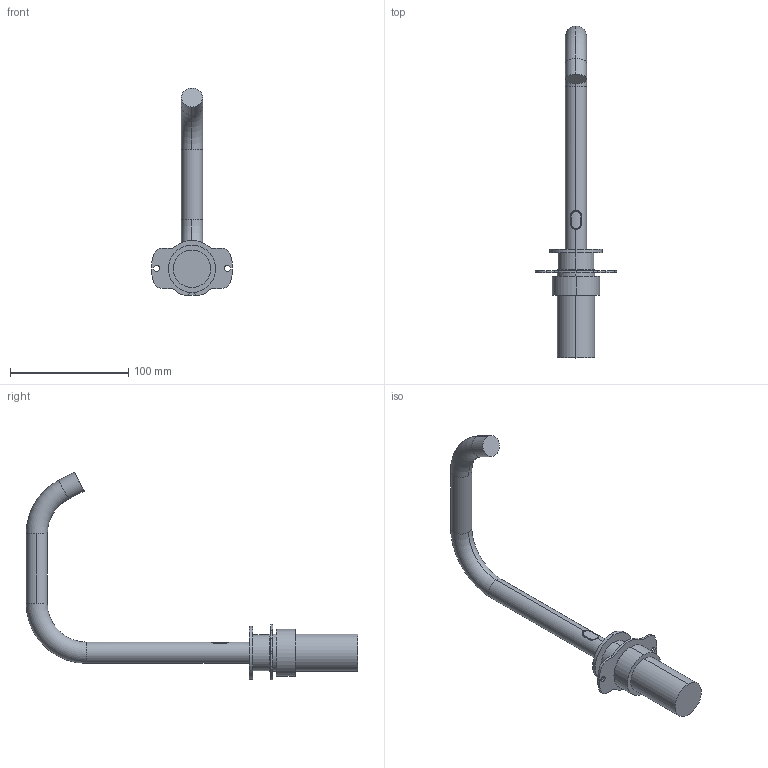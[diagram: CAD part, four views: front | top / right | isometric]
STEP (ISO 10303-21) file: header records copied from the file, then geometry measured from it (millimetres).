
FILE_DESCRIPTION (( 'STEP AP214' ), '1' );
FILE_NAME ('TSL.893 2.STEP', '2025-06-26T09:14:13', ( '' ), ( '' ), 'SwSTEP 2.0', 'SolidWorks 2022', '' );
FILE_SCHEMA (( 'AUTOMOTIVE_DESIGN' ));
Length unit declared in the file: millimetre
Products named in the file (1): TSL.893 2
Bounding box: 68.97 x 281 x 175.94 mm (x, y, z)
Volume: 166974.6 mm3; surface area: 36141.7 mm2
Topology: 1 solids, 1 shells, 100 faces, 264 edges, 172 vertices
Faces by surface type: cylinder 65, plane 27, torus 4, bspline 4
Entity records: 5881 total; most frequent: CARTESIAN_POINT 2231, DIRECTION 566, ORIENTED_EDGE 528, EDGE_CURVE 264, AXIS2_PLACEMENT_3D 225, VERTEX_POINT 172, CIRCLE 128, VECTOR 116
